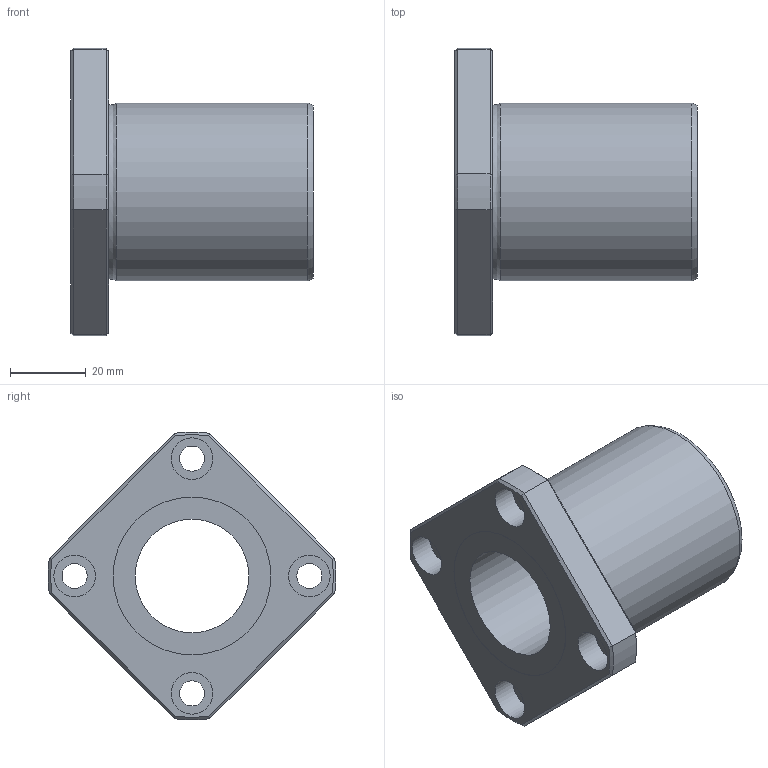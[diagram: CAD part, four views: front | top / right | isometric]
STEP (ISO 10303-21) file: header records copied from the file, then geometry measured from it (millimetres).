
FILE_DESCRIPTION((''),'2;1');
FILE_NAME('D:\製品 (図面)\カタログ用3D\リニアベアリング関連\STEP形式\LFK\LFK30.stp','2010-06-04T08:50:03',('Tsuchiya'),(''),'Autodesk Inventor 10','Autodesk Inventor 10','');
FILE_SCHEMA(('AUTOMOTIVE_DESIGN { 1 0 10303 214 1 1 1 1 }'));
Length unit declared in the file: millimetre
Products named in the file (1): LFK30
Bounding box: 64 x 75.93 x 75.93 mm (x, y, z)
Volume: 80257.6 mm3; surface area: 22595 mm2
Topology: 1 solids, 1 shells, 47 faces, 96 edges, 58 vertices
Faces by surface type: plane 21, cylinder 16, cone 8, torus 1, bspline 1
Full cylindrical faces by diameter (mm): 6.6 x4, 11 x4, 30 x1, 41.7 x2, 47 x1
Entity records: 1275 total; most frequent: CARTESIAN_POINT 298, DIRECTION 202, ORIENTED_EDGE 164, AXIS2_PLACEMENT_3D 89, EDGE_CURVE 82, EDGE_LOOP 78, VERTEX_POINT 58, FACE_OUTER_BOUND 47
